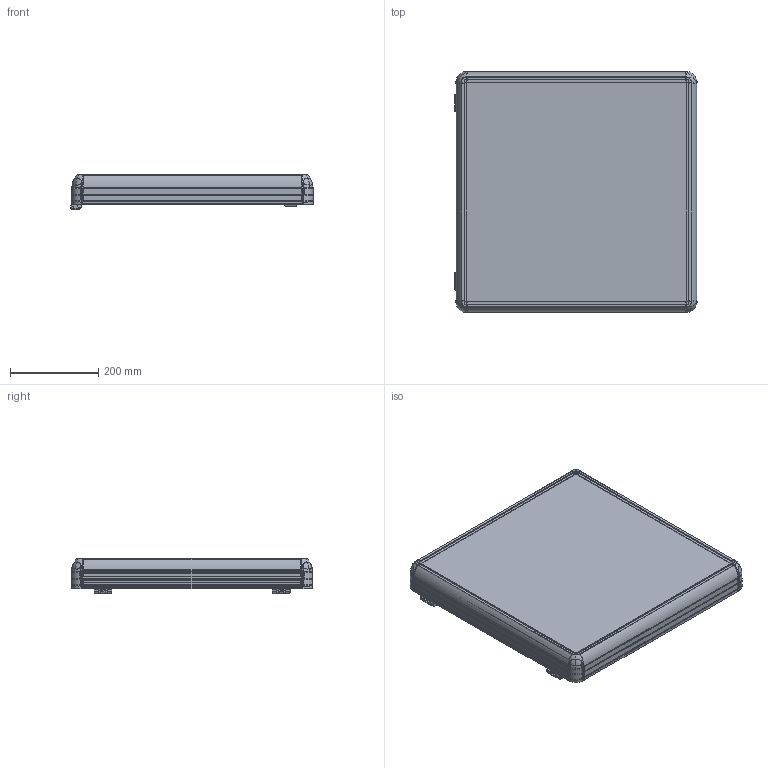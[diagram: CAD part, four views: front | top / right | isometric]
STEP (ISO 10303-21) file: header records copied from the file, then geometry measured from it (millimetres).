
FILE_DESCRIPTION (( 'STEP AP214' ), '1' );
FILE_NAME ('6000-0012.STEP', '2022-08-31T12:35:37', ( '' ), ( '' ), 'SwSTEP 2.0', 'SolidWorks 2022', '' );
FILE_SCHEMA (( 'AUTOMOTIVE_DESIGN' ));
Length unit declared in the file: millimetre
Products named in the file (6): 500X500; ARKA_KAPAK_500X500; HPECO-060-001-495_495; 6000-0012; HPECO-060-001-395_495; ECO6000-0000
Assembly tree (10 placements, depth 2):
  6000-0012
    500X500
    HPECO-060-001-495_495  x2
    HPECO-060-001-395_495  x2
    ECO6000-0000  x4
    ARKA_KAPAK_500X500
Bounding box: 549.03 x 547 x 79.15 mm (x, y, z)
Volume: 2887293.9 mm3; surface area: 1709085.9 mm2
Topology: 18 solids, 80 shells, 5207 faces, 13950 edges, 8674 vertices
Faces by surface type: plane 2069, cylinder 1378, bspline 932, cone 526, torus 256, sphere 46
Entity records: 141544 total; most frequent: CARTESIAN_POINT 33260, ORIENTED_EDGE 17164, DIRECTION 15292, EDGE_CURVE 8582, AXIS2_PLACEMENT_3D 5658, VERTEX_POINT 5341, VECTOR 3976, LINE 3976
